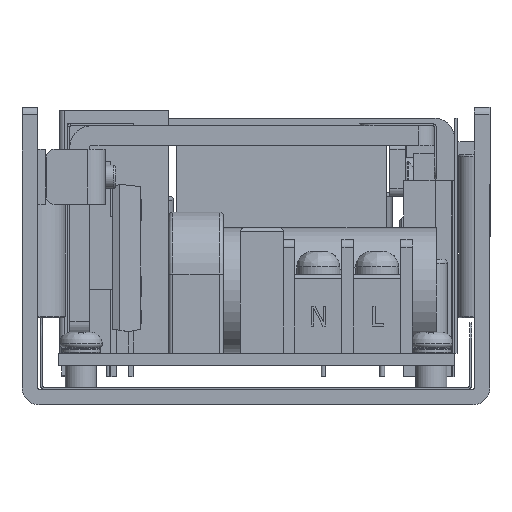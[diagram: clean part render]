
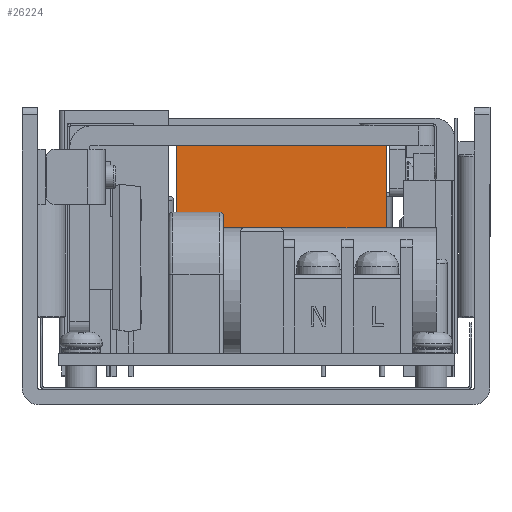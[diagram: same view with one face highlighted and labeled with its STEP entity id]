
A CAD part, left-side view. The second image highlights one B-rep face of the part: STEP entity #26224.
In plain terms, the highlighted planar face has unit normal (-1, 0, 0).
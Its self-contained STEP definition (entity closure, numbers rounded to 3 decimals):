
#2748=FACE_OUTER_BOUND($,#4317,.T.);
#4317=EDGE_LOOP($,(#18576,#18577,#18578,#18579));
#6075=LINE($,#36997,#8558);
#6076=LINE($,#37000,#8559);
#6077=LINE($,#37002,#8560);
#6078=LINE($,#37003,#8561);
#8558=VECTOR($,#30616,26.831);
#8559=VECTOR($,#30619,26.5);
#8560=VECTOR($,#30620,26.831);
#8561=VECTOR($,#30621,26.5);
#11761=VERTEX_POINT($,#36980);
#11765=VERTEX_POINT($,#36992);
#11766=VERTEX_POINT($,#36999);
#11767=VERTEX_POINT($,#37001);
#14401=EDGE_CURVE($,#11761,#11765,#6075,.T.);
#14402=EDGE_CURVE($,#11766,#11761,#6076,.T.);
#14403=EDGE_CURVE($,#11767,#11766,#6077,.T.);
#14404=EDGE_CURVE($,#11767,#11765,#6078,.T.);
#18576=ORIENTED_EDGE($,*,*,#14401,.F.);
#18577=ORIENTED_EDGE($,*,*,#14402,.F.);
#18578=ORIENTED_EDGE($,*,*,#14403,.F.);
#18579=ORIENTED_EDGE($,*,*,#14404,.T.);
#25278=PLANE($,#27987);
#26224=ADVANCED_FACE($,(#2748),#25278,.T.);
#27987=AXIS2_PLACEMENT_3D($,#36998,#30617,#30618);
#30616=DIRECTION($,(0.,-1.,0.));
#30617=DIRECTION('center_axis',(-1.,0.,0.));
#30618=DIRECTION('ref_axis',(0.,0.,1.));
#30619=DIRECTION($,(0.,0.,1.));
#30620=DIRECTION($,(0.,1.,0.));
#30621=DIRECTION($,(0.,0.,1.));
#36980=CARTESIAN_POINT('',(34.288,35.533,28.1));
#36992=CARTESIAN_POINT('',(34.288,8.701,28.1));
#36997=CARTESIAN_POINT($,(34.288,15.409,28.1));
#36998=CARTESIAN_POINT('Origin',(34.288,8.701,1.6));
#36999=CARTESIAN_POINT('',(34.288,35.533,1.6));
#37000=CARTESIAN_POINT($,(34.288,35.533,1.6));
#37001=CARTESIAN_POINT('',(34.288,8.701,1.6));
#37002=CARTESIAN_POINT($,(34.288,17.001,1.6));
#37003=CARTESIAN_POINT($,(34.288,8.701,1.6));
